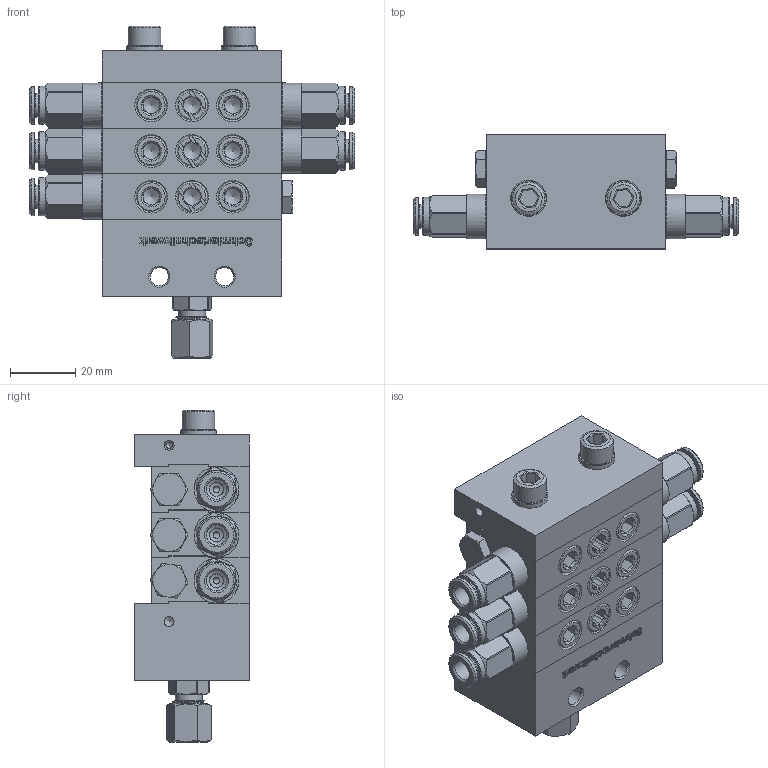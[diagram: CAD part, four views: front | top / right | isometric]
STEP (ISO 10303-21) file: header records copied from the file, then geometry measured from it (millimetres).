
FILE_DESCRIPTION (( 'STEP AP214' ), '1' );
FILE_NAME ('STW_XV_0143_05_0502_05_Auslässe.STEP', '2026-02-04T10:58:54', ( '' ), ( '' ), 'SwSTEP 2.0', 'SolidWorks 2022', '' );
FILE_SCHEMA (( 'AUTOMOTIVE_DESIGN' ));
Length unit declared in the file: millimetre
Products named in the file (18): DR6-C_HDX_25.07.16_1; 991214010601_Schneidring; U_Scheibe_6; 991214010601_Koerper; H200139_HDS01_6_M10X1_08.05.17; STW_XV_ENGANG; M6X65_DIN_912; OR 7.66X1.78_1; 991214010601_Mutter; STW_XV_Kolbenanschlag; Verschlussstopfen_1_8_2; STW_XV_MITTEL_1; STW_XV_END; STW_XV_0143_05_0502_05_Auslässe; RIVOLUZIONE_0_2; 991214010601; STW_XV_Verbindungsstopen; Verschlussstopfen_1_8
Assembly tree (37 placements, depth 3):
  STW_XV_0143_05_0502_05_Auslässe
    STW_XV_ENGANG
    STW_XV_MITTEL_1  x3
    STW_XV_END
    Verschlussstopfen_1_8_2  x6
    STW_XV_Kolbenanschlag  x6
    STW_XV_Verbindungsstopen  x3
    M6X65_DIN_912  x2
    U_Scheibe_6  x2
    991214010601
      991214010601_Koerper
      991214010601_Schneidring
      991214010601_Mutter
    H200139_HDS01_6_M10X1_08.05.17  x5
      OR 7.66X1.78_1
      DR6-C_HDX_25.07.16_1
      RIVOLUZIONE_0_2
    Verschlussstopfen_1_8
Bounding box: 99.6 x 35 x 101.68 mm (x, y, z)
Volume: 138242.7 mm3; surface area: 72350.8 mm2
Topology: 43 solids, 43 shells, 1535 faces, 3962 edges, 2552 vertices
Faces by surface type: plane 761, cylinder 358, cone 273, bspline 137, torus 6
Full cylindrical faces by diameter (mm): 2 x89, 3 x10, 4.2 x5, 4.5 x1, 5 x38, 5.5 x2, 5.9 x2, 6 x3, 6.2 x14, 6.3 x5, 6.4 x2, 6.5 x6, 7 x6, 7.2 x5, 7.4 x1, 7.67 x1, 8 x7, 8.3 x1, 8.4 x3, 8.5 x5, 8.6 x15, 9 x8, 9.7 x7, 9.73 x3, 9.8 x7, 9.9 x5, 10 x18, 10.3 x5, 11 x2, 11.5 x5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
Entity records: 45478 total; most frequent: CARTESIAN_POINT 22428, ORIENTED_EDGE 3064, DIRECTION 2675, EDGE_CURVE 1532, VERTEX_POINT 1095, EDGE_LOOP 1035, AXIS2_PLACEMENT_3D 955, FACE_OUTER_BOUND 832
